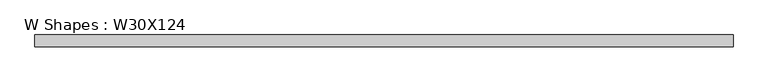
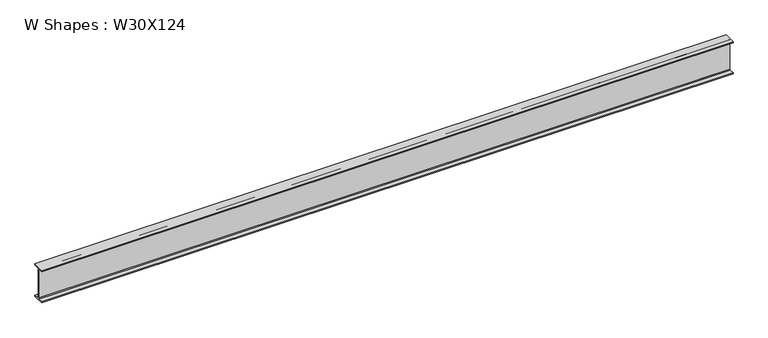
"""IFC4 building model written with IfcOpenShell, lengths in millimetres: beam geometry, W Shapes : W30X124."""

from ifc_helpers import new_model, si_unit, point, frame, frame_2d, origin, place, context, project, spatial, polyline, circle_curve, trimmed, segment, composite_curve, outline, extrude, source, transform, mapped, element, save


def w_shapes_w30x124_dbd2c16d(model_context):
    return source(origin(), model_context, "Body", "SweptSolid", [
        extrude(outline(composite_curve([segment(polyline([(133.35, -359.918), (133.35, -383.54), (-133.35, -383.54), (-133.35, -359.918), (-23.9395, -359.918)]), True, "CONTINUOUS"), segment(trimmed(circle_curve(frame_2d((-23.9395, -343.408)), 16.51), [point((-23.9395, -359.918))], [point((-7.4295, -343.408))], True, "CARTESIAN"), True, "CONTINUOUS"), segment(polyline([(-7.4295, -343.408), (-7.4295, 343.408)]), True, "CONTINUOUS"), segment(trimmed(circle_curve(frame_2d((-23.9395, 343.408)), 16.51), [point((-7.4295, 343.408))], [point((-23.9395, 359.918))], True, "CARTESIAN"), True, "CONTINUOUS"), segment(polyline([(-23.9395, 359.918), (-133.35, 359.918), (-133.35, 383.54), (133.35, 383.54), (133.35, 359.918), (23.9395, 359.918)]), True, "CONTINUOUS"), segment(trimmed(circle_curve(frame_2d((23.9395, 343.408)), 16.51), [point((23.9395, 359.918))], [point((7.4295, 343.408))], True, "CARTESIAN"), True, "CONTINUOUS"), segment(polyline([(7.4295, 343.408), (7.4295, -343.408)]), True, "CONTINUOUS"), segment(trimmed(circle_curve(frame_2d((23.9395, -343.408)), 16.51), [point((7.4295, -343.408))], [point((23.9395, -359.918))], True, "CARTESIAN"), True, "CONTINUOUS"), segment(polyline([(23.9395, -359.918), (133.35, -359.918)]), True, "CONTINUOUS")], self_intersect=False)), frame((-7790.4489974, 0.0, 0.0), z_axis=(1.0, 0.0, 0.0), x_axis=(0.0, 1.0, 0.0)), (0.0, 0.0, 1.0), 15580.8980178),
    ])


if __name__ == "__main__":
    model = new_model("IFC4")
    model_context = context("Model", 3, world=origin())
    ifc_project = project(units=[si_unit("LENGTHUNIT", "METRE", prefix="MILLI")], contexts=[model_context])
    site = spatial("IfcSite", under=ifc_project)
    building = spatial("IfcBuilding", under=site)
    placement = place(None, origin())
    w_shapes_w30x124_shape = w_shapes_w30x124_dbd2c16d(model_context)
    element("IfcBeam", 1, ObjectType="W Shapes : W30X124", at=placement, inside=building, context=model_context, shape_type="MappedRepresentation", body=[
        mapped(w_shapes_w30x124_shape, transform((0.0, 0.0, 0.0), x_axis=(1.0, 0.0, 0.0), y_axis=(0.0, 1.0, 0.0), z_axis=(0.0, 0.0, 1.0))),
    ])
    save(model, "model.ifc")
